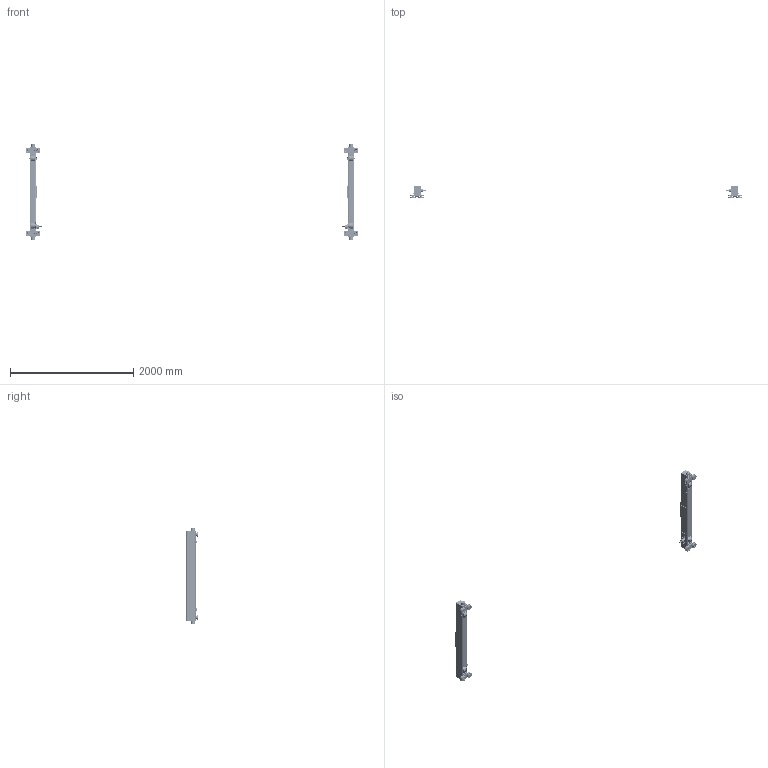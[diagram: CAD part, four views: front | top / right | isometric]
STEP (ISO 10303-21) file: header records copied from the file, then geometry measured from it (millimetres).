
FILE_DESCRIPTION (( 'STEP AP214' ), '1' );
FILE_NAME ('TG-3-0135.STEP', '2026-08-07T17:55:23', ( '' ), ( '' ), 'SwSTEP 2.0', 'SolidWorks 2026', '' );
FILE_SCHEMA (( 'AUTOMOTIVE_DESIGN' ));
Length unit declared in the file: inch
Products named in the file (47): T7G117020; N6QO310E9108_N6QO3101108 DOMESTIC; 6240804; 6240814; 6240806; 9000504; 6240813; TG-3-0135; 6240817X_6240817A; 9093327_9093327; 6232305; 6232404; 62394_6239401; 9093101_9093101; 6240826; N6QO3101101; 62395_0135 - 25# RAIL; T600-400-004 sp_57.125; 6240822; 6240825; 9093328_9093328; N6Q0310E9102_Domestic; N6QO3101102; 6240823; 9012514_9012514; 9047242_9047242; N6QL210207; N6QO310E91012; T600-400-004_57.125; N6GO310306; 62393_6239301; 9000605; 62396_0135 - 25# RAIL; 9047252_9047252; 9000705; 9047120_9047120; 9047125_B27.7M - 3AM1-23; 6240805X_6240805A; 9012711_9012711; 6240803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
Assembly tree (129 placements, depth 4):
  TG-3-0135
    62395_0135 - 25# RAIL
      62393_6239301
        T600-400-004_57.125
        6240822
        6240823
      6240806  x2
      6240817X_6240817A  x2
        6240805X_6240805A
        6232305
      6240813
      T7G117020
      6240802
      6240803
      6240804
    62396_0135 - 25# RAIL
      62394_6239401
        T600-400-004 sp_57.125
        6240822
        6240823
      6240806  x2
      6240813
      6240817X_6240817A  x2
        6240805X_6240805A
        6232305
      T7G117020
      6240802
      6240803
      6240804
    6240814  x4
    6240825  x2
    6240826  x2
    9012711_9012711  x18
    9093327_9093327  x6
    N6QL210207  x4
    9012514_9012514  x4
    9093101_9093101  x4
    N6QO3101108_N6QO3101108  x8
      N6QO310E9108_N6QO3101108 DOMESTIC
      9047252_9047252
      9000605
    6232404  x8
    9047125_B27.7M - 3AM1-23  x8
    N6QO3101102  x2
      N6Q0310E9102_Domestic
      9000705
    N6QO3101101  x2
      N6QO310E91012
      9000705
    N6GO310V5303  x2
      N6GO310303
      9047120_9047120
      9047242_9047242
      N6GO310306
      N6GO310V301
      9000504
    9093328_9093328  x8
Bounding box: 5383.61 x 207.96 x 1548.03 mm (x, y, z)
Volume: 14557314 mm3; surface area: 4408664.3 mm2
Topology: 130 solids, 210 shells, 12366 faces, 33056 edges, 21974 vertices
Faces by surface type: plane 8246, cylinder 2044, bspline 1420, cone 480, torus 176
Entity records: 117147 total; most frequent: CARTESIAN_POINT 50736, ORIENTED_EDGE 14490, DIRECTION 11897, EDGE_CURVE 7251, VERTEX_POINT 4810, AXIS2_PLACEMENT_3D 4193, LINE 3511, VECTOR 3511
